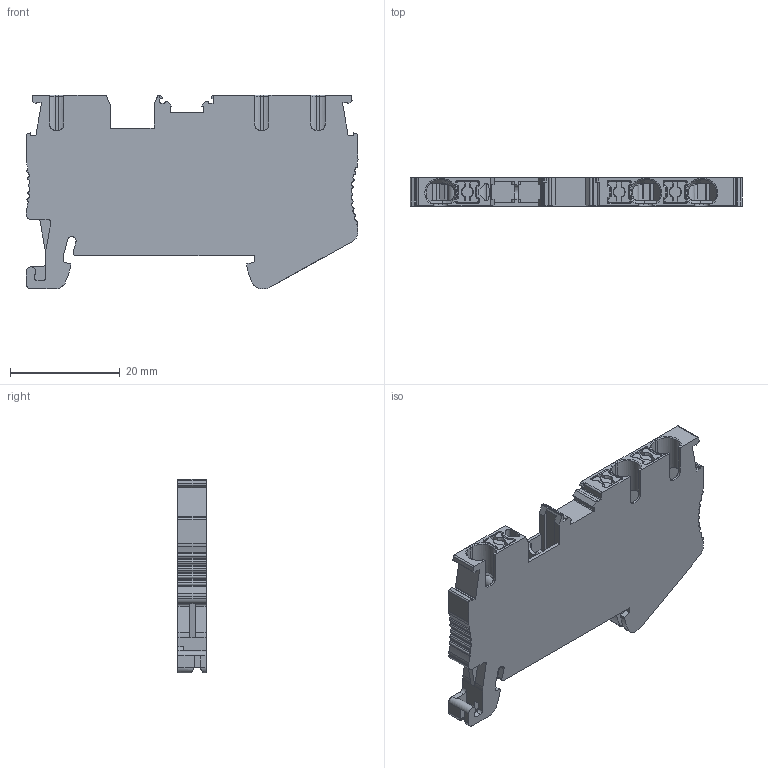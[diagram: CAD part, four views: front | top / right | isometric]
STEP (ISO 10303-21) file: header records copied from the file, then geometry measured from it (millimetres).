
FILE_DESCRIPTION(/* description */ (''),/* implementation_level */ '2;1');
FILE_NAME(/* name */ 'UPT-2.5-1-2PE ASSY.stp',/* time_stamp */ '2024-04-26T14:04:51+08:00',/* author */ (''),/* organization */ (''),/* preprocessor_version */ 'ST-DEVELOPER v16.7',/* originating_system */ 'SIEMENS PLM Software NX 12.0',/* authorisation */ '');
FILE_SCHEMA (('AUTOMOTIVE_DESIGN { 1 0 10303 214 3 1 1 1 }'));
Length unit declared in the file: millimetre
Products named in the file (1): Admi0EB4BAB8ixes
Bounding box: 60.4 x 5.15 x 35.25 mm (x, y, z)
Volume: 7473.1 mm3; surface area: 6561.2 mm2
Topology: 1 solids, 2 shells, 764 faces, 2177 edges, 1405 vertices
Faces by surface type: plane 397, cylinder 264, cone 61, torus 18, bspline 12, extrusion 12
Entity records: 25679 total; most frequent: CARTESIAN_POINT 5730, ORIENTED_EDGE 4294, DIRECTION 4100, EDGE_CURVE 2147, VECTOR 1398, VERTEX_POINT 1396, LINE 1386, AXIS2_PLACEMENT_3D 1351
